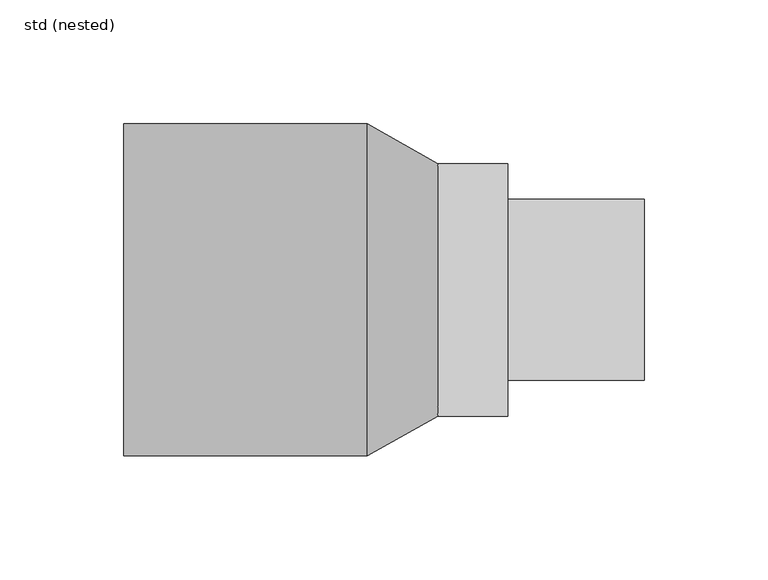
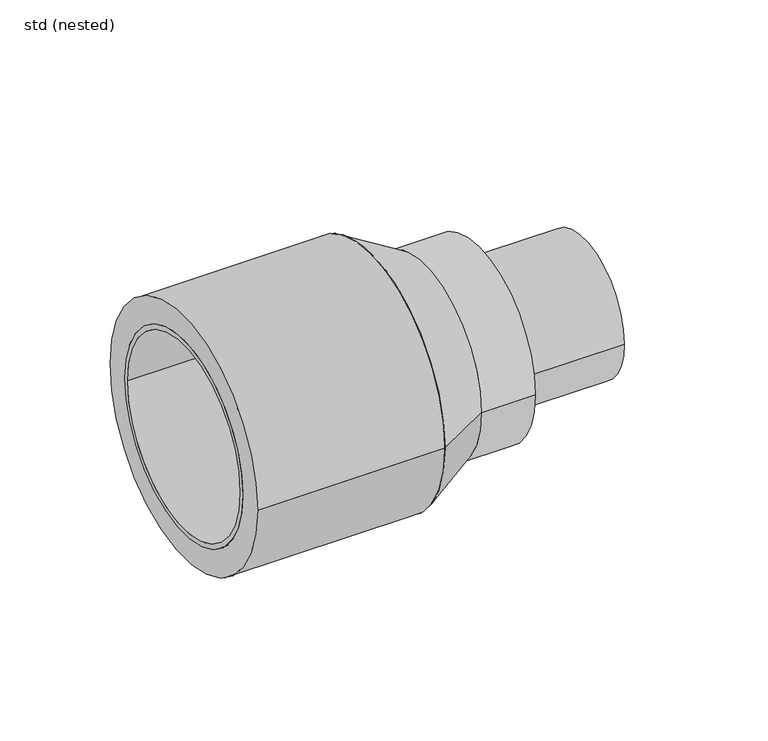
"""IFC4 building model written with IfcOpenShell, lengths in millimetres: pipe fitting geometry, ZZZ_do not use_PIF_ST_WPB_GM-X compound pipe optimiser_ACO : std (nested)."""

from ifc_helpers import new_model, si_unit, point, frame, origin, origin_2d, place, context, project, spatial, polyline, circle_curve, trimmed, segment, composite_curve, outline, extrude, source, transform, mapped, element, save
from ifc_brep_helpers import plane_surface, cylinder_surface, revolved_surface, advanced_brep


def std_nested_bf323bc0(model_context):
    return source(origin(), model_context, "Body", "SolidModel", [
        advanced_brep(
        [(-61.7, 59.0, 0.0), (-33.0, 59.0, 0.0), (-33.0, -59.0, 0.0), (-61.7, -59.0, 0.0), (-70.0, -53.5, 0.0), (-70.0, 53.5, 0.0), (-70.0, 51.0, 0.0), (-70.0, -51.0, 0.0), (0.0, -53.5, 0.0), (0.0, 53.5, 0.0), (0.0, -51.0, 0.0), (0.0, 51.0, 0.0), (-33.0, -53.5, 0.0), (-33.0, 53.5, 0.0), (-61.7, 53.5, 0.0), (-61.7, -53.5, 0.0)],
        [
            (0, 1),
            (1, 2, circle_curve(frame((-33.0, 0.0, 0.0), z_axis=(-1.0, 0.0, 0.0), x_axis=(0.0, 1.0, 0.0)), 59.0)),
            (2, 3),
            (3, 0, circle_curve(frame((-61.7, 0.0, 0.0), z_axis=(1.0, 0.0, 0.0), x_axis=(0.0, 1.0, 0.0)), 59.0)),
            (2, 1, circle_curve(frame((-33.0, 0.0, 0.0), z_axis=(-1.0, 0.0, 0.0), x_axis=(0.0, 1.0, 0.0)), 59.0)),
            (0, 3, circle_curve(frame((-61.7, 0.0, 0.0), z_axis=(1.0, 0.0, 0.0), x_axis=(0.0, 1.0, 0.0)), 59.0)),
            (4, 5, circle_curve(frame((-70.0, 0.0, 0.0), z_axis=(-1.0, 0.0, 0.0), x_axis=(0.0, 1.0, 0.0)), 53.5)),
            (5, 4, circle_curve(frame((-70.0, 0.0, 0.0), z_axis=(-1.0, 0.0, 0.0), x_axis=(0.0, 1.0, 0.0)), 53.5)),
            (6, 7, circle_curve(frame((-70.0, 0.0, 0.0), z_axis=(1.0, 0.0, 0.0), x_axis=(0.0, 1.0, 0.0)), 51.0)),
            (7, 6, circle_curve(frame((-70.0, 0.0, 0.0), z_axis=(1.0, 0.0, 0.0), x_axis=(0.0, 1.0, 0.0)), 51.0)),
            (8, 9, circle_curve(frame((0.0, 0.0, 0.0), z_axis=(1.0, 0.0, 0.0), x_axis=(0.0, 1.0, 0.0)), 53.5)),
            (9, 8, circle_curve(frame((0.0, 0.0, 0.0), z_axis=(1.0, 0.0, 0.0), x_axis=(0.0, 1.0, 0.0)), 53.5)),
            (10, 11, circle_curve(frame((0.0, 0.0, 0.0), z_axis=(-1.0, 0.0, 0.0), x_axis=(0.0, 1.0, 0.0)), 51.0)),
            (11, 10, circle_curve(frame((0.0, 0.0, 0.0), z_axis=(-1.0, 0.0, 0.0), x_axis=(0.0, 1.0, 0.0)), 51.0)),
            (8, 12),
            (12, 13, circle_curve(frame((-33.0, 0.0, 0.0), z_axis=(1.0, 0.0, 0.0), x_axis=(0.0, 1.0, 0.0)), 53.5)),
            (13, 9),
            (5, 14),
            (14, 15, circle_curve(frame((-61.7, 0.0, 0.0), z_axis=(-1.0, 0.0, 0.0), x_axis=(0.0, 1.0, 0.0)), 53.5)),
            (15, 4),
            (15, 14, circle_curve(frame((-61.7, 0.0, 0.0), z_axis=(-1.0, 0.0, 0.0), x_axis=(0.0, 1.0, 0.0)), 53.5)),
            (13, 12, circle_curve(frame((-33.0, 0.0, 0.0), z_axis=(1.0, 0.0, 0.0), x_axis=(0.0, 1.0, 0.0)), 53.5)),
            (7, 10),
            (11, 6),
        ],
        [
            cylinder_surface(frame((-33.0, 0.0, 0.0), z_axis=(-1.0, 0.0, 0.0), x_axis=(0.0, 1.0, 0.0)), 59.0),
            plane_surface(frame((-70.0, 53.5, 0.0), z_axis=(-1.0, 0.0, 0.0), x_axis=(0.0, 0.0, 1.0))),
            plane_surface(frame((0.0, 53.5, 0.0), z_axis=(1.0, 0.0, 0.0), x_axis=(0.0, 0.0, -1.0))),
            cylinder_surface(frame((0.0, 0.0, 0.0), z_axis=(-1.0, 0.0, 0.0), x_axis=(0.0, 1.0, 0.0)), 53.5),
            revolved_surface(polyline([(-70.0, 51.0, 0.0), (0.0, 51.0, 0.0)]), (0.0, 0.0, 0.0), (-1.0, 0.0, 0.0)),
            plane_surface(frame((-61.7, 59.0, 0.0), z_axis=(-1.0, 0.0, 0.0), x_axis=(0.0, 0.0, 1.0))),
            plane_surface(frame((-33.0, 59.0, 0.0), z_axis=(1.0, 0.0, 0.0), x_axis=(0.0, 0.0, -1.0))),
        ],
        [
            (0, [[1, 2, 3, 4]]),
            (0, [[-3, 5, -1, 6]]),
            (1, [[7, 8], [9, 10]]),
            (2, [[11, 12], [13, 14]]),
            (3, [[15, 16, 17, -11]]),
            (3, [[18, 19, 20, -8]]),
            (3, [[-20, 21, -18, -7]]),
            (3, [[-17, 22, -15, -12]]),
            (4, [[-10, 23, -14, 24]]),
            (4, [[-13, -23, -9, -24]]),
            (5, [[-6, -4], [-21, -19]]),
            (6, [[-2, -5], [-22, -16]]),
        ],
    ),
        advanced_brep(
        [(56.6666667, 51.0, 0.0), (56.6666667, -51.0, 0.0), (28.3333333, 67.0, 0.0), (28.3333333, -67.0, 0.0)],
        [
            (0, 1, circle_curve(frame((56.6666667, 0.0, 0.0), z_axis=(1.0, 0.0, 0.0), x_axis=(0.0, -1.0, 0.0)), 51.0)),
            (1, 0, circle_curve(frame((56.6666667, 0.0, 0.0), z_axis=(1.0, 0.0, 0.0), x_axis=(0.0, 1.0, 0.0)), 51.0)),
            (2, 3, circle_curve(frame((28.3333333, 0.0, 0.0), z_axis=(-1.0, 0.0, 0.0), x_axis=(0.0, 1.0, 0.0)), 67.0)),
            (3, 2, circle_curve(frame((28.3333333, 0.0, 0.0), z_axis=(-1.0, 0.0, 0.0), x_axis=(0.0, -1.0, 0.0)), 67.0)),
            (2, 0),
            (1, 3),
        ],
        [
            plane_surface(frame((56.6666667, 0.0, 0.0), z_axis=(1.0, 0.0, 0.0), x_axis=(0.0, 0.0, -1.0))),
            plane_surface(frame((28.3333333, 0.0, 0.0), z_axis=(-1.0, 0.0, 0.0), x_axis=(0.0, 0.0, -1.0))),
            revolved_surface(polyline([(56.66666670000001, 50.99999997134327, 0.0), (28.333333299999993, 67.0, 0.0)]), (146.9791667, 0.0, 0.0), (-1.0, 0.0, 0.0)),
            revolved_surface(polyline([(56.66666670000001, -50.99999997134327, 0.0), (28.333333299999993, -67.0, 0.0)]), (146.9791667, 0.0, 0.0), (-1.0, 0.0, 0.0)),
        ],
        [
            (0, [[1, 2]]),
            (1, [[3, 4]]),
            (2, [[5, -2, 6, -3]]),
            (3, [[-6, -1, -5, -4]]),
        ],
    ),
        advanced_brep(
        [(-70.0, 67.0, 0.0), (-70.0, -67.0, 0.0), (-70.0, -53.5, 0.0), (-70.0, 53.5, 0.0), (28.3333333, 67.0, 0.0), (28.3333333, -67.0, 0.0), (0.0, 53.5, 0.0), (0.0, -53.5, 0.0)],
        [
            (0, 1, circle_curve(frame((-70.0, 0.0, 0.0), z_axis=(-1.0, 0.0, 0.0), x_axis=(0.0, -1.0, 0.0)), 67.0)),
            (1, 0, circle_curve(frame((-70.0, 0.0, 0.0), z_axis=(-1.0, 0.0, 0.0), x_axis=(0.0, -1.0, 0.0)), 67.0)),
            (2, 3, circle_curve(frame((-70.0, 0.0, 0.0), z_axis=(1.0, 0.0, 0.0), x_axis=(0.0, -1.0, 0.0)), 53.5)),
            (3, 2, circle_curve(frame((-70.0, 0.0, 0.0), z_axis=(1.0, 0.0, 0.0), x_axis=(0.0, -1.0, 0.0)), 53.5)),
            (4, 5, circle_curve(frame((28.3333333, 0.0, 0.0), z_axis=(1.0, 0.0, 0.0), x_axis=(0.0, -1.0, 0.0)), 67.0)),
            (5, 4, circle_curve(frame((28.3333333, 0.0, 0.0), z_axis=(1.0, 0.0, 0.0), x_axis=(0.0, -1.0, 0.0)), 67.0)),
            (1, 5),
            (4, 0),
            (6, 7, circle_curve(frame((0.0, 0.0, 0.0), z_axis=(-1.0, 0.0, 0.0), x_axis=(0.0, -1.0, 0.0)), 53.5)),
            (7, 6, circle_curve(frame((0.0, 0.0, 0.0), z_axis=(-1.0, 0.0, 0.0), x_axis=(0.0, -1.0, 0.0)), 53.5)),
            (7, 2),
            (3, 6),
        ],
        [
            plane_surface(frame((-70.0, -67.0, 0.0), z_axis=(-1.0, 0.0, 0.0), x_axis=(0.0, 0.0, -1.0))),
            plane_surface(frame((28.3333333, -67.0, 0.0), z_axis=(1.0, 0.0, 0.0), x_axis=(0.0, 0.0, 1.0))),
            cylinder_surface(frame((28.3333333, 0.0, 0.0), z_axis=(-1.0, 0.0, 0.0), x_axis=(0.0, -1.0, 0.0)), 67.0),
            plane_surface(frame((0.0, -53.5, 0.0), z_axis=(-1.0, 0.0, 0.0), x_axis=(0.0, 0.0, 1.0))),
            revolved_surface(polyline([(-70.0, -53.5, 0.0), (0.0, -53.5, 0.0)]), (0.0, 0.0, 0.0), (-1.0, 0.0, 0.0)),
        ],
        [
            (0, [[1, 2], [3, 4]]),
            (1, [[5, 6]]),
            (2, [[7, -5, 8, -2]]),
            (2, [[-8, -6, -7, -1]]),
            (3, [[9, 10]]),
            (4, [[11, -4, 12, -10]]),
            (4, [[-12, -3, -11, -9]]),
        ],
    ),
        extrude(outline(composite_curve([segment(trimmed(circle_curve(origin_2d(), 51.0), [point((-51.0, 0.0))], [point((51.0, 0.0))], False, "CARTESIAN"), True, "CONTINUOUS"), segment(trimmed(circle_curve(origin_2d(), 51.0), [point((51.0, 0.0))], [point((-51.0, 0.0))], False, "CARTESIAN"), True, "CONTINUOUS")], self_intersect=False)), frame((56.6666667, 0.0, 0.0), z_axis=(1.0, 0.0, 0.0), x_axis=(0.0, 1.0, 0.0)), (0.0, 0.0, 1.0), 28.3333333),
        extrude(outline(composite_curve([segment(trimmed(circle_curve(origin_2d(), 36.5), [point((-36.5, 0.0))], [point((36.5, 0.0))], False, "CARTESIAN"), True, "CONTINUOUS"), segment(trimmed(circle_curve(origin_2d(), 36.5), [point((36.5, 0.0))], [point((-36.5, 0.0))], False, "CARTESIAN"), True, "CONTINUOUS")], self_intersect=False)), frame((85.0, 0.0, 0.0), z_axis=(1.0, 0.0, 0.0), x_axis=(0.0, 1.0, 0.0)), (0.0, 0.0, 1.0), 55.0),
    ])


if __name__ == "__main__":
    model = new_model("IFC4")
    model_context = context("Model", 3, world=origin())
    ifc_project = project(units=[si_unit("LENGTHUNIT", "METRE", prefix="MILLI")], contexts=[model_context])
    site = spatial("IfcSite", under=ifc_project)
    building = spatial("IfcBuilding", under=site)
    placement = place(None, origin())
    std_nested_shape = std_nested_bf323bc0(model_context)
    element("IfcPipeFitting", 1, ObjectType="ZZZ_do not use_PIF_ST_WPB_GM-X compound pipe optimiser_ACO : std (nested)", at=placement, inside=building, context=model_context, shape_type="MappedRepresentation", body=[
        mapped(std_nested_shape, transform((0.0, 0.0, 0.0), x_axis=(1.0, 0.0, 0.0), y_axis=(0.0, 1.0, 0.0), z_axis=(0.0, 0.0, 1.0))),
    ])
    save(model, "model.ifc")
